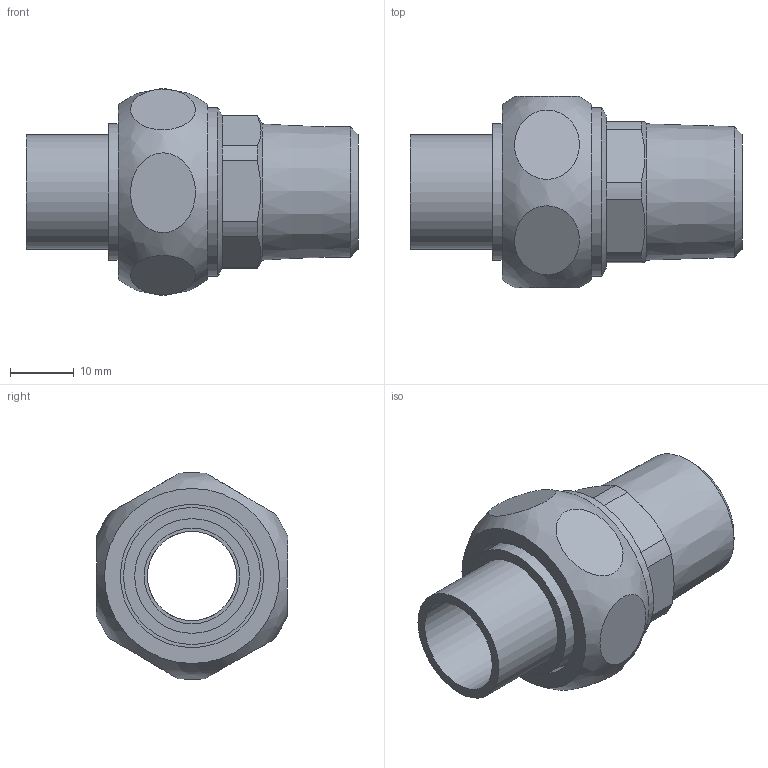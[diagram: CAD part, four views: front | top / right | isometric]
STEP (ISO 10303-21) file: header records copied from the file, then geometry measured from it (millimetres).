
FILE_DESCRIPTION(/* description */ (''),/* implementation_level */ '2;1');
FILE_NAME(/* name */ '\\LG50001\SANHA_Legnica\Engineering\Public\RYSUNKI\SANHA POLSKA\4343\Inventor\stp\143431512.stp',/* time_stamp */ '2016-02-04T11:09:40+01:00',/* author */ ('gomulka'),/* organization */ (''),/* preprocessor_version */ 'ST-DEVELOPER v15.6',/* originating_system */ 'Autodesk Inventor 2015',/* authorisation */ '');
FILE_SCHEMA (('AUTOMOTIVE_DESIGN { 1 0 10303 214 3 1 1 }'));
Length unit declared in the file: millimetre
Products named in the file (4): 14381_15-34(1); 14374_34(2); 14386g_12-34(2); 143431512
Assembly tree (3 placements, depth 2):
  143431512
    14381_15-34(1)
    14374_34(2)
    14386g_12-34(2)
Bounding box: 52.1 x 30.09 x 32.5 mm (x, y, z)
Volume: 14307.1 mm3; surface area: 10079.7 mm2
Topology: 3 solids, 3 shells, 54 faces, 103 edges, 64 vertices
Faces by surface type: plane 28, cylinder 17, cone 7, torus 1, bspline 1
Full cylindrical faces by diameter (mm): 14 x2, 15 x1, 16 x1, 18 x1, 21 x1, 21.5 x1, 22.5 x1, 23.5 x1, 24.117 x1, 26.44 x1
Entity records: 1699 total; most frequent: CARTESIAN_POINT 590, DIRECTION 236, ORIENTED_EDGE 164, AXIS2_PLACEMENT_3D 109, EDGE_LOOP 88, EDGE_CURVE 82, VERTEX_POINT 62, FACE_OUTER_BOUND 54
